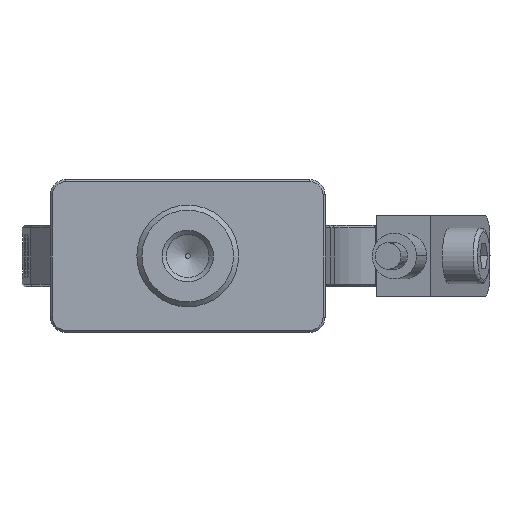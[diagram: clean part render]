
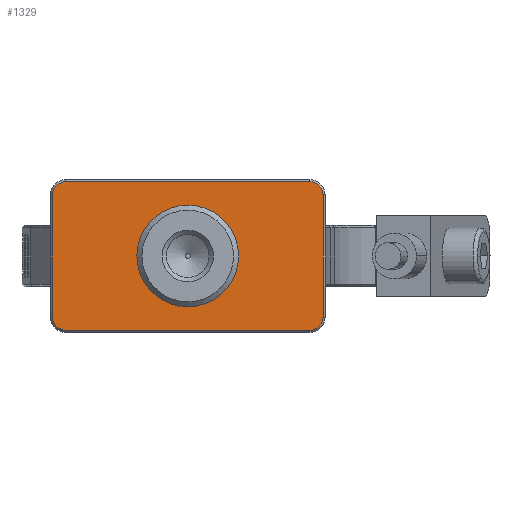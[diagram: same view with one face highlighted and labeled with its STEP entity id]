
A CAD part, front view. The second image highlights one B-rep face of the part: STEP entity #1329.
In plain terms, the highlighted planar face has unit normal (0, -1, 0).
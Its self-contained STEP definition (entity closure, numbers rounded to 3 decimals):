
#446=CIRCLE('',#9581,5.);
#506=CIRCLE('',#9681,1.3);
#507=CIRCLE('',#9682,1.3);
#508=CIRCLE('',#9683,1.3);
#509=CIRCLE('',#9684,1.3);
#979=FACE_BOUND('',#2757,.T.);
#1329=ADVANCED_FACE('',(#2143,#979),#1736,.T.);
#1736=PLANE('',#9685);
#2143=FACE_OUTER_BOUND('',#2756,.T.);
#2756=EDGE_LOOP('',(#4510,#4511,#4512,#4513,#4514,#4515,#4516,#4517));
#2757=EDGE_LOOP('',(#4518));
#4510=ORIENTED_EDGE('',*,*,#7140,.T.);
#4511=ORIENTED_EDGE('',*,*,#7141,.T.);
#4512=ORIENTED_EDGE('',*,*,#7142,.T.);
#4513=ORIENTED_EDGE('',*,*,#7143,.T.);
#4514=ORIENTED_EDGE('',*,*,#7144,.T.);
#4515=ORIENTED_EDGE('',*,*,#7145,.T.);
#4516=ORIENTED_EDGE('',*,*,#7146,.T.);
#4517=ORIENTED_EDGE('',*,*,#7147,.T.);
#4518=ORIENTED_EDGE('',*,*,#7016,.F.);
#5981=VERTEX_POINT('',#15276);
#6085=VERTEX_POINT('',#15708);
#6086=VERTEX_POINT('',#15709);
#6087=VERTEX_POINT('',#15711);
#6088=VERTEX_POINT('',#15713);
#6089=VERTEX_POINT('',#15715);
#6090=VERTEX_POINT('',#15717);
#6091=VERTEX_POINT('',#15719);
#6092=VERTEX_POINT('',#15721);
#7016=EDGE_CURVE('',#5981,#5981,#446,.T.);
#7140=EDGE_CURVE('',#6085,#6086,#506,.T.);
#7141=EDGE_CURVE('',#6086,#6087,#8104,.T.);
#7142=EDGE_CURVE('',#6087,#6088,#507,.T.);
#7143=EDGE_CURVE('',#6088,#6089,#8105,.T.);
#7144=EDGE_CURVE('',#6089,#6090,#508,.T.);
#7145=EDGE_CURVE('',#6090,#6091,#8106,.T.);
#7146=EDGE_CURVE('',#6091,#6092,#509,.T.);
#7147=EDGE_CURVE('',#6092,#6085,#8107,.T.);
#8104=LINE('',#15710,#8844);
#8105=LINE('',#15714,#8845);
#8106=LINE('',#15718,#8846);
#8107=LINE('',#15722,#8847);
#8844=VECTOR('',#11731,1.);
#8845=VECTOR('',#11734,1.);
#8846=VECTOR('',#11737,1.);
#8847=VECTOR('',#11740,1.);
#9581=AXIS2_PLACEMENT_3D('',#15275,#11473,#11474);
#9681=AXIS2_PLACEMENT_3D('',#15707,#11729,#11730);
#9682=AXIS2_PLACEMENT_3D('',#15712,#11732,#11733);
#9683=AXIS2_PLACEMENT_3D('',#15716,#11735,#11736);
#9684=AXIS2_PLACEMENT_3D('',#15720,#11738,#11739);
#9685=AXIS2_PLACEMENT_3D('',#15723,#11741,#11742);
#11473=DIRECTION('',(0.,-1.,0.));
#11474=DIRECTION('',(0.,0.,-1.));
#11729=DIRECTION('',(0.,-1.,0.));
#11730=DIRECTION('',(0.,0.,-1.));
#11731=DIRECTION('',(0.,0.,-1.));
#11732=DIRECTION('',(0.,-1.,0.));
#11733=DIRECTION('',(0.,0.,-1.));
#11734=DIRECTION('',(1.,0.,0.));
#11735=DIRECTION('',(0.,-1.,0.));
#11736=DIRECTION('',(0.,0.,-1.));
#11737=DIRECTION('',(0.,0.,1.));
#11738=DIRECTION('',(0.,-1.,0.));
#11739=DIRECTION('',(0.,0.,-1.));
#11740=DIRECTION('',(-1.,0.,0.));
#11741=DIRECTION('',(0.,-1.,0.));
#11742=DIRECTION('',(0.,0.,-1.));
#15275=CARTESIAN_POINT('',(0.,-4.,-7.5));
#15276=CARTESIAN_POINT('',(0.,-4.,-12.5));
#15707=CARTESIAN_POINT('',(-12.,-4.,-1.5));
#15708=CARTESIAN_POINT('',(-12.,-4.,-0.2));
#15709=CARTESIAN_POINT('',(-13.3,-4.,-1.5));
#15710=CARTESIAN_POINT('',(-13.3,-4.,-13.5));
#15711=CARTESIAN_POINT('',(-13.3,-4.,-13.5));
#15712=CARTESIAN_POINT('',(-12.,-4.,-13.5));
#15713=CARTESIAN_POINT('',(-12.,-4.,-14.8));
#15714=CARTESIAN_POINT('',(12.,-4.,-14.8));
#15715=CARTESIAN_POINT('',(12.,-4.,-14.8));
#15716=CARTESIAN_POINT('',(12.,-4.,-13.5));
#15717=CARTESIAN_POINT('',(13.3,-4.,-13.5));
#15718=CARTESIAN_POINT('',(13.3,-4.,-1.5));
#15719=CARTESIAN_POINT('',(13.3,-4.,-1.5));
#15720=CARTESIAN_POINT('',(12.,-4.,-1.5));
#15721=CARTESIAN_POINT('',(12.,-4.,-0.2));
#15722=CARTESIAN_POINT('',(12.5,-4.,-0.2));
#15723=CARTESIAN_POINT('',(12.5,-4.,0.));
